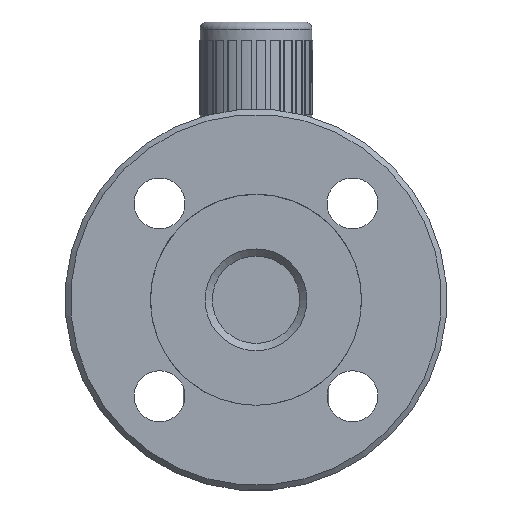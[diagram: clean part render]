
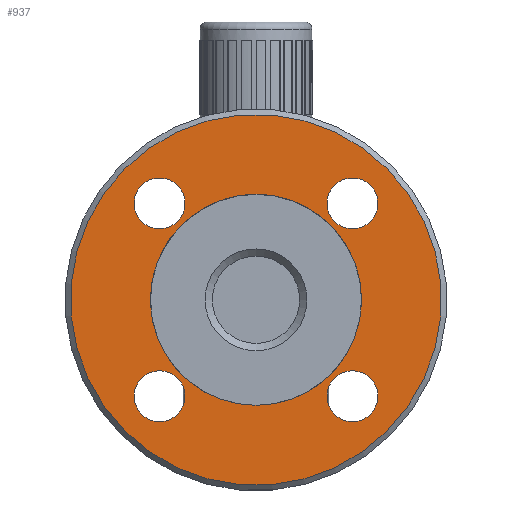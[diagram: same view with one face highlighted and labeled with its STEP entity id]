
A CAD part, left-side view. The second image highlights one B-rep face of the part: STEP entity #937.
In plain terms, the highlighted planar face has unit normal (-1, 0, 0).
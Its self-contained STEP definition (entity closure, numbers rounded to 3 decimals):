
#449=PLANE('',#4934);
#629=FACE_BOUND('',#1576,.T.);
#630=FACE_BOUND('',#1577,.T.);
#631=FACE_BOUND('',#1578,.T.);
#632=FACE_BOUND('',#1579,.T.);
#633=FACE_BOUND('',#1580,.T.);
#634=FACE_BOUND('',#1581,.T.);
#937=ADVANCED_FACE('',(#629,#630,#631,#632,#633,#634),#449,.T.);
#1576=EDGE_LOOP('',(#2927));
#1577=EDGE_LOOP('',(#2928));
#1578=EDGE_LOOP('',(#2929));
#1579=EDGE_LOOP('',(#2930));
#1580=EDGE_LOOP('',(#2931));
#1581=EDGE_LOOP('',(#2932));
#1857=CIRCLE('',#4928,51.);
#1858=CIRCLE('',#4929,29.);
#1859=CIRCLE('',#4930,7.);
#1860=CIRCLE('',#4931,7.);
#1861=CIRCLE('',#4932,7.);
#1862=CIRCLE('',#4933,7.);
#2927=ORIENTED_EDGE('',*,*,#3977,.T.);
#2928=ORIENTED_EDGE('',*,*,#3978,.F.);
#2929=ORIENTED_EDGE('',*,*,#3979,.T.);
#2930=ORIENTED_EDGE('',*,*,#3980,.T.);
#2931=ORIENTED_EDGE('',*,*,#3981,.T.);
#2932=ORIENTED_EDGE('',*,*,#3982,.T.);
#3413=VERTEX_POINT('',#13474);
#3414=VERTEX_POINT('',#13476);
#3415=VERTEX_POINT('',#13478);
#3416=VERTEX_POINT('',#13480);
#3417=VERTEX_POINT('',#13482);
#3418=VERTEX_POINT('',#13484);
#3977=EDGE_CURVE('',#3413,#3413,#1857,.T.);
#3978=EDGE_CURVE('',#3414,#3414,#1858,.T.);
#3979=EDGE_CURVE('',#3415,#3415,#1859,.T.);
#3980=EDGE_CURVE('',#3416,#3416,#1860,.T.);
#3981=EDGE_CURVE('',#3417,#3417,#1861,.T.);
#3982=EDGE_CURVE('',#3418,#3418,#1862,.T.);
#4928=AXIS2_PLACEMENT_3D('',#13473,#6116,#6117);
#4929=AXIS2_PLACEMENT_3D('',#13475,#6118,#6119);
#4930=AXIS2_PLACEMENT_3D('',#13477,#6120,#6121);
#4931=AXIS2_PLACEMENT_3D('',#13479,#6122,#6123);
#4932=AXIS2_PLACEMENT_3D('',#13481,#6124,#6125);
#4933=AXIS2_PLACEMENT_3D('',#13483,#6126,#6127);
#4934=AXIS2_PLACEMENT_3D('',#13485,#6128,#6129);
#6116=DIRECTION('',(-1.,0.,0.));
#6117=DIRECTION('',(0.,0.707,0.707));
#6118=DIRECTION('',(-1.,0.,0.));
#6119=DIRECTION('',(0.,0.707,0.707));
#6120=DIRECTION('',(1.,0.,0.));
#6121=DIRECTION('',(0.,-0.707,0.707));
#6122=DIRECTION('',(1.,0.,0.));
#6123=DIRECTION('',(0.,0.707,0.707));
#6124=DIRECTION('',(1.,0.,0.));
#6125=DIRECTION('',(0.,0.707,-0.707));
#6126=DIRECTION('',(1.,0.,0.));
#6127=DIRECTION('',(0.,-0.707,-0.707));
#6128=DIRECTION('',(-1.,0.,0.));
#6129=DIRECTION('',(0.,0.707,0.707));
#13473=CARTESIAN_POINT('',(27.,0.,100.));
#13474=CARTESIAN_POINT('',(27.,36.062,136.062));
#13475=CARTESIAN_POINT('',(27.,0.,100.));
#13476=CARTESIAN_POINT('',(27.,20.506,120.506));
#13477=CARTESIAN_POINT('',(27.,26.517,126.517));
#13478=CARTESIAN_POINT('',(27.,21.567,131.466));
#13479=CARTESIAN_POINT('',(27.,26.517,73.483));
#13480=CARTESIAN_POINT('',(27.,31.466,78.433));
#13481=CARTESIAN_POINT('',(27.,-26.517,73.483));
#13482=CARTESIAN_POINT('',(27.,-21.567,68.534));
#13483=CARTESIAN_POINT('',(27.,-26.517,126.517));
#13484=CARTESIAN_POINT('',(27.,-31.466,121.567));
#13485=CARTESIAN_POINT('',(27.,0.,100.));
